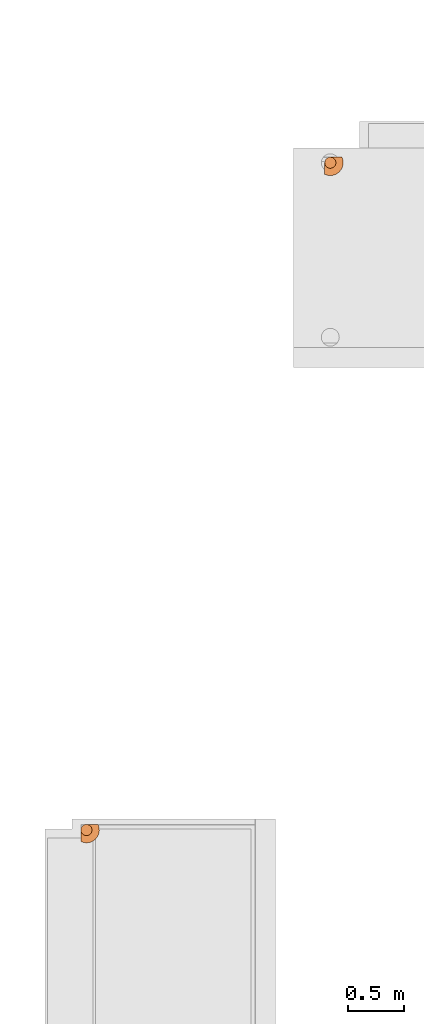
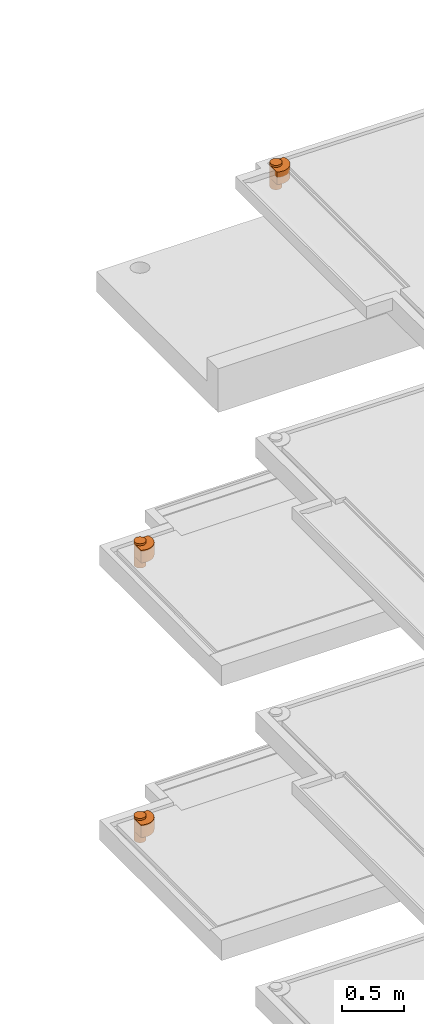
# One storey, part 23 of 31: 3 proxies, 3 elements without a shape of their own.
"""IFC2X3 building model written with IfcOpenShell, lengths in centimetres."""

from ifc_helpers import new_model, entity, si_unit, converted_unit, derived_unit, direction, frame, origin, place, context, subcontext, project, spatial, faceted_brep, source, transform, mapped, material, type_object, type_shapes, element, aggregate, save


model = new_model("IFC2X3")

# Units and contexts
model_context = context("Model", 3, precision=0.001, world=origin(), true_north=direction((6.12303176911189e-17, 1.0)))
body_context = subcontext(model_context, "Body", "Model", "MODEL_VIEW")
ifc_project = project(units=[si_unit("LENGTHUNIT", "METRE", prefix="CENTI"), si_unit("AREAUNIT", "SQUARE_METRE"), si_unit("VOLUMEUNIT", "CUBIC_METRE"), converted_unit("PLANEANGLEUNIT", "DEGREE", entity("IfcRatioMeasure", 0.0174532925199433), si_unit("PLANEANGLEUNIT", "RADIAN"), dimensions=[0, 0, 0, 0, 0, 0, 0]), si_unit("MASSUNIT", "GRAM", prefix="KILO"), derived_unit("MASSDENSITYUNIT", [(si_unit("MASSUNIT", "GRAM", prefix="KILO"), 1), (si_unit("LENGTHUNIT", "METRE"), -3)]), si_unit("TIMEUNIT", "SECOND"), si_unit("FREQUENCYUNIT", "HERTZ"), si_unit("THERMODYNAMICTEMPERATUREUNIT", "DEGREE_CELSIUS"), derived_unit("THERMALTRANSMITTANCEUNIT", [(si_unit("MASSUNIT", "GRAM", prefix="KILO"), 1), (si_unit("THERMODYNAMICTEMPERATUREUNIT", "KELVIN"), -1), (si_unit("TIMEUNIT", "SECOND"), -3)]), derived_unit("VOLUMETRICFLOWRATEUNIT", [(si_unit("LENGTHUNIT", "METRE"), 3), (si_unit("TIMEUNIT", "SECOND"), -1)]), si_unit("ELECTRICCURRENTUNIT", "AMPERE"), si_unit("ELECTRICVOLTAGEUNIT", "VOLT"), si_unit("POWERUNIT", "WATT"), si_unit("FORCEUNIT", "NEWTON"), si_unit("ILLUMINANCEUNIT", "LUX"), si_unit("LUMINOUSFLUXUNIT", "LUMEN"), si_unit("LUMINOUSINTENSITYUNIT", "CANDELA"), derived_unit("USERDEFINED", [(si_unit("MASSUNIT", "GRAM", prefix="KILO"), -1), (si_unit("LENGTHUNIT", "METRE"), -2), (si_unit("TIMEUNIT", "SECOND"), 3), (si_unit("LUMINOUSFLUXUNIT", "LUMEN"), 1)]), derived_unit("LINEARVELOCITYUNIT", [(si_unit("LENGTHUNIT", "METRE"), 1), (si_unit("TIMEUNIT", "SECOND"), -1)]), si_unit("PRESSUREUNIT", "PASCAL"), derived_unit("USERDEFINED", [(si_unit("LENGTHUNIT", "METRE"), -2), (si_unit("MASSUNIT", "GRAM", prefix="KILO"), 1), (si_unit("TIMEUNIT", "SECOND"), -2)])], contexts=[model_context])

# Site, building, storey
site_placement = place(None, origin())
site = spatial("IfcSite", under=ifc_project, at=site_placement, Name="Default", CompositionType="ELEMENT")
building_placement = place(site_placement, origin())
building = spatial("IfcBuilding", under=site, at=building_placement, Name="CAGE 03", CompositionType="ELEMENT")
storey_placement = place(building_placement, frame((0.0, 0.0, -400.0)))
storey = spatial("IfcBuildingStorey", under=building, at=storey_placement, Name="±0.00", CompositionType="ELEMENT", Elevation=-400.0)

# Assembly, proxy
assembly_1_placement = place(storey_placement, origin())
assembly_1 = element("IfcElementAssembly", 1, at=assembly_1_placement, inside=storey, Name="Assemblage Modèles génériques:BALCON TYPE 01", ObjectType="Assemblage Modèles génériques:BALCON TYPE 01", AssemblyPlace="NOTDEFINED", PredefinedType="USERDEFINED")
ifc_material = material(Name="BBGO_Résa")
building_element_proxy_type_1 = type_object("IfcBuildingElementProxyType", Name="Siphon de balcon", PredefinedType="NOTDEFINED", material=ifc_material)
shared_shape_1 = source(origin(), body_context, "Body", "Brep", [
    faceted_brep([(6.68784336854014, 14.159527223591, 9.69999999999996), (6.68784336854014, 14.1595272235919, 0.0), (6.18834125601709, 12.9536224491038, 0.0), (6.18834125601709, 12.9536224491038, 9.69999999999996), (6.68784336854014, 14.1595272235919, 22.0), (6.18834125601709, 12.9536224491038, 22.0), (6.18834125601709, 12.9536224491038, 24.0), (6.68784336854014, 14.1595272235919, 24.0), (6.01797038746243, 11.6595272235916, 0.0), (6.01797038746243, 11.6595272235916, 9.69999999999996), (6.01797038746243, 11.6595272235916, 22.0), (6.01797038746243, 11.6595272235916, 24.0), (6.18834125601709, 10.3654319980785, 9.69999999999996), (6.18834125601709, 10.3654319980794, 0.0), (6.68784336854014, 9.15952722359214, 0.0), (6.68784336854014, 9.15952722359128, 9.69999999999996), (6.18834125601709, 10.3654319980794, 22.0), (6.68784336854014, 9.15952722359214, 22.0), (6.68784336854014, 9.15952722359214, 24.0), (6.18834125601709, 10.3654319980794, 24.0), (7.48243648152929, 8.12399331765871, 0.0), (7.48243648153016, 8.12399331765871, 9.69999999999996), (7.48243648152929, 8.12399331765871, 24.0), (7.48243648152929, 8.12399331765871, 22.0), (7.48243648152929, 15.1950611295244, 9.69999999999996), (7.48243648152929, 15.1950611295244, 0.0), (7.48243648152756, 15.195061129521, 22.0), (7.48243648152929, 15.1950611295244, 24.0), (8.51797038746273, 7.32940020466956, 9.69999999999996), (8.51797038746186, 7.32940020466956, 0.0), (9.72387516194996, 6.82989809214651, 0.0), (9.72387516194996, 6.82989809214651, 9.69999999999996), (8.51797038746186, 7.32940020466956, 22.0), (9.72387516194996, 6.82989809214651, 22.0), (9.72387516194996, 6.82989809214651, 24.0), (8.51797038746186, 7.32940020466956, 24.0), (11.0179703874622, 6.65952722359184, 0.0), (11.0179703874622, 6.65952722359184, 9.69999999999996), (11.0179703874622, 6.65952722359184, 22.0), (11.0179703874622, 6.65952722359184, 24.0), (12.3120656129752, 6.82989809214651, 9.69999999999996), (12.3120656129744, 6.82989809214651, 0.0), (13.5179703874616, 7.32940020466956, 0.0), (13.5179703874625, 7.32940020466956, 9.69999999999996), (12.3120656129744, 6.82989809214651, 22.0), (13.5179703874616, 7.32940020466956, 22.0), (13.5179703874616, 7.32940020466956, 24.0), (12.3120656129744, 6.82989809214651, 24.0), (14.553504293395, 8.12399331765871, 0.0), (14.553504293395, 8.12399331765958, 9.69999999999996), (14.553504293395, 8.12399331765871, 22.0), (14.553504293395, 8.12399331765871, 24.0), (15.3480974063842, 14.1595272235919, 22.0), (15.8475995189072, 12.9536224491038, 22.0), (16.0179703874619, 11.6595272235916, 22.0), (15.8475995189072, 10.3654319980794, 22.0), (15.3480974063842, 9.15952722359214, 22.0), (0.15952722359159, 7.872151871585, 22.0), (1.41532336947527, 5.33187598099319, 22.0), (3.25417812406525, 3.17580577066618, 22.0), (5.56443893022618, 1.53485465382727, 22.0), (8.20583014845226, 0.508658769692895, 22.0), (11.0179703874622, 0.15952722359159, 22.0), (13.8301106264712, 0.508658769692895, 22.0), (16.4715018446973, 1.53485465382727, 22.0), (18.7817626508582, 3.17580577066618, 22.0), (20.6206174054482, 5.33187598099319, 22.0), (21.8764135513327, 7.87215187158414, 22.0), (14.553504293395, 15.1950611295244, 22.0), (15.3480974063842, 9.15952722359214, 9.69999999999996), (15.8475995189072, 10.3654319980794, 9.69999999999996), (16.0179703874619, 11.6595272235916, 9.69999999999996), (15.8475995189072, 12.9536224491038, 9.69999999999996), (15.3480974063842, 14.159527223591, 9.69999999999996), (14.553504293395, 15.1950611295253, 9.69999999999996), (21.8764135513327, 7.87215187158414, 9.69999999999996), (20.6206174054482, 5.33187598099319, 9.69999999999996), (18.7817626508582, 3.17580577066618, 9.69999999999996), (16.4715018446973, 1.53485465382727, 9.69999999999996), (13.8301106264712, 0.508658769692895, 9.69999999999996), (11.0179703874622, 0.15952722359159, 9.69999999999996), (8.20583014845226, 0.508658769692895, 9.69999999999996), (5.56443893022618, 1.53485465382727, 9.69999999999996), (3.25417812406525, 3.17580577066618, 9.69999999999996), (1.41532336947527, 5.33187598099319, 9.69999999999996), (0.15952722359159, 7.872151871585, 9.69999999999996), (0.15952722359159, 7.872151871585, 21.3763717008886), (21.8764135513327, 7.87215187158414, 21.5299497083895), (15.3480974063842, 9.15952722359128, 24.0), (15.8475995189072, 10.3654319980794, 24.0), (16.0179703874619, 11.6595272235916, 24.0), (15.8475995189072, 12.9536224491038, 24.0), (15.3480974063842, 14.159527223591, 24.0), (14.553504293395, 15.1950611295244, 24.0), (13.5179703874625, 15.9896542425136, 24.0), (12.3120656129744, 16.4891563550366, 24.0), (11.0179703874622, 16.6595272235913, 24.0), (9.72387516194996, 16.4891563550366, 24.0), (8.51797038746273, 15.9896542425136, 24.0), (15.8475995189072, 10.3654319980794, 0.0), (15.3480974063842, 9.15952722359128, 0.0), (8.51797038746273, 15.9896542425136, 0.0), (9.72387516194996, 16.4891563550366, 0.0), (11.0179703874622, 16.6595272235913, 0.0), (12.3120656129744, 16.4891563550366, 0.0), (13.5179703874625, 15.9896542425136, 0.0), (14.553504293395, 15.1950611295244, 0.0), (15.3480974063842, 14.159527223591, 0.0), (15.8475995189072, 12.9536224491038, 0.0), (16.0179703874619, 11.6595272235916, 0.0)], [[[0, 1, 2, 3]], [[4, 5, 6, 7]], [[8, 9, 3, 2]], [[5, 10, 11, 6]], [[12, 13, 14, 15]], [[16, 17, 18, 19]], [[8, 13, 12, 9]], [[10, 16, 19, 11]], [[15, 14, 20, 21]], [[22, 18, 17, 23]], [[1, 0, 24, 25]], [[26, 4, 7, 27]], [[28, 29, 30, 31]], [[32, 33, 34, 35]], [[36, 37, 31, 30]], [[33, 38, 39, 34]], [[40, 41, 42, 43]], [[44, 45, 46, 47]], [[36, 41, 40, 37]], [[38, 44, 47, 39]], [[43, 42, 48, 49]], [[45, 50, 51, 46]], [[29, 28, 21, 20]], [[32, 35, 22, 23]], [[52, 53, 54, 55, 56, 50, 45, 44, 38, 33, 32, 23, 17, 16, 10, 5, 4, 26, 57, 58, 59, 60, 61, 62, 63, 64, 65, 66, 67, 68]], [[21, 28, 31, 37, 40, 43, 49, 69, 70, 71, 72, 73, 74, 75, 76, 77, 78, 79, 80, 81, 82, 83, 84, 85, 24, 0, 3, 9, 12, 15]], [[57, 26, 24, 85, 86]], [[86, 85, 84, 58, 57]], [[83, 59, 58, 84]], [[60, 82, 81, 61]], [[83, 82, 60, 59]], [[61, 81, 80, 62]], [[78, 64, 63, 79]], [[77, 65, 64, 78]], [[76, 75, 87, 67, 66]], [[77, 76, 66, 65]], [[79, 63, 62, 80]], [[68, 67, 87, 75, 74]], [[18, 22, 35, 34, 39, 47, 46, 51, 88, 89, 90, 91, 92, 93, 94, 95, 96, 97, 98, 27, 7, 6, 11, 19]], [[99, 100, 48, 42, 41, 36, 30, 29, 20, 14, 13, 8, 2, 1, 25, 101, 102, 103, 104, 105, 106, 107, 108, 109]], [[48, 100, 69, 49]], [[51, 50, 56, 88]], [[99, 70, 69, 100]], [[56, 55, 89, 88]], [[109, 108, 72, 71]], [[54, 53, 91, 90]], [[109, 71, 70, 99]], [[54, 90, 89, 55]], [[108, 107, 73, 72]], [[91, 53, 52, 92]], [[74, 106, 105, 94, 93, 68]], [[107, 106, 74, 73]], [[52, 68, 93, 92]], [[94, 105, 104, 95]], [[101, 25, 24, 26, 27, 98]], [[96, 103, 102, 97]], [[101, 98, 97, 102]], [[95, 104, 103, 96]]]),
])
type_shapes(building_element_proxy_type_1, [shared_shape_1])
proxy_1_placement = place(assembly_1_placement, frame((4909.81946933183, 4641.62525373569, 988.0), z_axis=(0.0, 0.0, 1.0), x_axis=(0.707106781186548, 0.707106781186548, 0.0)))
proxy_1 = element("IfcBuildingElementProxy", 2, at=proxy_1_placement, type_object=building_element_proxy_type_1, material=ifc_material, Name="Siphon de balcon:Siphon de balcon", ObjectType="Siphon de balcon", context=body_context, shape_type="MappedRepresentation", body=[
    mapped(shared_shape_1, transform((0.0, 0.0, 0.0), scale=1.0)),
])
aggregate(assembly_1, [proxy_1])

assembly_2_placement = place(storey_placement, origin())
assembly_2 = element("IfcElementAssembly", 3, at=assembly_2_placement, inside=storey, Name="Assemblage Modèles génériques:BALCON TYPE 01", ObjectType="Assemblage Modèles génériques:BALCON TYPE 01", AssemblyPlace="NOTDEFINED", PredefinedType="USERDEFINED")
building_element_proxy_type_2 = type_object("IfcBuildingElementProxyType", Name="Siphon de balcon", PredefinedType="NOTDEFINED", material=ifc_material)
shared_shape_2 = source(origin(), body_context, "Body", "Brep", [
    faceted_brep([(6.68784336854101, 14.1595272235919, 9.69999999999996), (6.68784336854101, 14.1595272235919, 0.0), (6.18834125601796, 12.9536224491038, 0.0), (6.18834125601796, 12.9536224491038, 9.69999999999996), (6.68784336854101, 14.1595272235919, 22.0), (6.18834125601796, 12.9536224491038, 22.0), (6.18834125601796, 12.9536224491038, 24.0), (6.68784336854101, 14.1595272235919, 24.0), (6.01797038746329, 11.6595272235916, 0.0), (6.01797038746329, 11.6595272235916, 9.69999999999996), (6.01797038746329, 11.6595272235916, 22.0), (6.01797038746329, 11.6595272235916, 24.0), (6.18834125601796, 10.3654319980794, 9.69999999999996), (6.18834125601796, 10.3654319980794, 0.0), (6.68784336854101, 9.15952722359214, 0.0), (6.68784336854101, 9.15952722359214, 9.69999999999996), (6.18834125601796, 10.3654319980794, 22.0), (6.68784336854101, 9.15952722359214, 22.0), (6.68784336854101, 9.15952722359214, 24.0), (6.18834125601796, 10.3654319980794, 24.0), (7.48243648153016, 8.12399331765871, 0.0), (7.48243648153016, 8.12399331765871, 9.69999999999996), (7.48243648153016, 8.12399331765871, 24.0), (7.48243648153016, 8.12399331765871, 22.0), (7.48243648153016, 15.1950611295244, 9.69999999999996), (7.48243648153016, 15.1950611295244, 0.0), (7.48243648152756, 15.1950611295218, 22.0), (7.48243648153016, 15.1950611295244, 24.0), (8.51797038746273, 7.32940020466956, 9.69999999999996), (8.51797038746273, 7.32940020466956, 0.0), (9.72387516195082, 6.82989809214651, 0.0), (9.72387516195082, 6.82989809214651, 9.69999999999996), (8.51797038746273, 7.32940020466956, 22.0), (9.72387516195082, 6.82989809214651, 22.0), (9.72387516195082, 6.82989809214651, 24.0), (8.51797038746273, 7.32940020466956, 24.0), (11.017970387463, 6.65952722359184, 0.0), (11.017970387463, 6.65952722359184, 9.69999999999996), (11.017970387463, 6.65952722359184, 22.0), (11.017970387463, 6.65952722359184, 24.0), (12.3120656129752, 6.82989809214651, 9.69999999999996), (12.3120656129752, 6.82989809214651, 0.0), (13.5179703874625, 7.32940020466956, 0.0), (13.5179703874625, 7.32940020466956, 9.69999999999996), (12.3120656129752, 6.82989809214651, 22.0), (13.5179703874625, 7.32940020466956, 22.0), (13.5179703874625, 7.32940020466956, 24.0), (12.3120656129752, 6.82989809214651, 24.0), (14.5535042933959, 8.12399331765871, 0.0), (14.5535042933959, 8.12399331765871, 9.69999999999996), (14.5535042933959, 8.12399331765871, 22.0), (14.5535042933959, 8.12399331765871, 24.0), (15.348097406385, 14.1595272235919, 22.0), (15.8475995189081, 12.9536224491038, 22.0), (16.0179703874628, 11.6595272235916, 22.0), (15.8475995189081, 10.3654319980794, 22.0), (15.348097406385, 9.15952722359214, 22.0), (0.15952722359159, 7.87215187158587, 22.0), (1.41532336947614, 5.33187598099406, 22.0), (3.25417812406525, 3.17580577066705, 22.0), (5.56443893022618, 1.53485465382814, 22.0), (8.20583014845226, 0.508658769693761, 22.0), (11.0179703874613, 0.15952722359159, 22.0), (13.8301106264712, 0.508658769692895, 22.0), (16.4715018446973, 1.5348546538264, 22.0), (18.7817626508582, 3.17580577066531, 22.0), (20.620617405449, 5.33187598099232, 22.0), (21.8764135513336, 7.87215187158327, 22.0), (14.5535042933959, 15.1950611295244, 22.0), (15.348097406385, 9.15952722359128, 9.69999999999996), (15.8475995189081, 10.3654319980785, 9.69999999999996), (16.0179703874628, 11.6595272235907, 9.69999999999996), (15.8475995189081, 12.9536224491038, 9.69999999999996), (15.3480974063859, 14.159527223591, 9.69999999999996), (14.5535042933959, 15.1950611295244, 9.69999999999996), (21.8764135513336, 7.87215187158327, 9.69999999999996), (20.620617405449, 5.33187598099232, 9.69999999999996), (18.7817626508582, 3.17580577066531, 9.69999999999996), (16.4715018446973, 1.5348546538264, 9.69999999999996), (13.8301106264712, 0.508658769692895, 9.69999999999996), (11.0179703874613, 0.15952722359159, 9.69999999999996), (8.20583014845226, 0.508658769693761, 9.69999999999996), (5.56443893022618, 1.53485465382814, 9.69999999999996), (3.25417812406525, 3.17580577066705, 9.69999999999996), (1.41532336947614, 5.33187598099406, 9.69999999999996), (0.15952722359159, 7.87215187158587, 9.69999999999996), (0.15952722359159, 7.87215187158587, 21.3763717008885), (21.8764135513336, 7.87215187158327, 21.5299497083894), (15.348097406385, 9.15952722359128, 24.0), (15.8475995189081, 10.3654319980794, 24.0), (16.0179703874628, 11.6595272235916, 24.0), (15.8475995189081, 12.9536224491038, 24.0), (15.348097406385, 14.159527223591, 24.0), (14.5535042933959, 15.1950611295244, 24.0), (13.5179703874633, 15.9896542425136, 24.0), (12.3120656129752, 16.4891563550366, 24.0), (11.017970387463, 16.6595272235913, 24.0), (9.72387516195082, 16.4891563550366, 24.0), (8.51797038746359, 15.9896542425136, 24.0), (15.8475995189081, 10.3654319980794, 0.0), (15.348097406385, 9.15952722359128, 0.0), (8.51797038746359, 15.9896542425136, 0.0), (9.72387516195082, 16.4891563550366, 0.0), (11.017970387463, 16.6595272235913, 0.0), (12.3120656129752, 16.4891563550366, 0.0), (13.5179703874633, 15.9896542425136, 0.0), (14.5535042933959, 15.1950611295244, 0.0), (15.348097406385, 14.159527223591, 0.0), (15.8475995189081, 12.9536224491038, 0.0), (16.0179703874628, 11.6595272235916, 0.0)], [[[0, 1, 2, 3]], [[4, 5, 6, 7]], [[8, 9, 3, 2]], [[5, 10, 11, 6]], [[12, 13, 14, 15]], [[16, 17, 18, 19]], [[8, 13, 12, 9]], [[10, 16, 19, 11]], [[15, 14, 20, 21]], [[22, 18, 17, 23]], [[1, 0, 24, 25]], [[26, 4, 7, 27]], [[28, 29, 30, 31]], [[32, 33, 34, 35]], [[36, 37, 31, 30]], [[33, 38, 39, 34]], [[40, 41, 42, 43]], [[44, 45, 46, 47]], [[36, 41, 40, 37]], [[38, 44, 47, 39]], [[43, 42, 48, 49]], [[45, 50, 51, 46]], [[29, 28, 21, 20]], [[32, 35, 22, 23]], [[52, 53, 54, 55, 56, 50, 45, 44, 38, 33, 32, 23, 17, 16, 10, 5, 4, 26, 57, 58, 59, 60, 61, 62, 63, 64, 65, 66, 67, 68]], [[21, 28, 31, 37, 40, 43, 49, 69, 70, 71, 72, 73, 74, 75, 76, 77, 78, 79, 80, 81, 82, 83, 84, 85, 24, 0, 3, 9, 12, 15]], [[57, 26, 24, 85, 86]], [[86, 85, 84, 58, 57]], [[83, 59, 58, 84]], [[60, 82, 81, 61]], [[83, 82, 60, 59]], [[61, 81, 80, 62]], [[78, 64, 63, 79]], [[77, 65, 64, 78]], [[76, 75, 87, 67, 66]], [[77, 76, 66, 65]], [[79, 63, 62, 80]], [[68, 67, 87, 75, 74]], [[18, 22, 35, 34, 39, 47, 46, 51, 88, 89, 90, 91, 92, 93, 94, 95, 96, 97, 98, 27, 7, 6, 11, 19]], [[99, 100, 48, 42, 41, 36, 30, 29, 20, 14, 13, 8, 2, 1, 25, 101, 102, 103, 104, 105, 106, 107, 108, 109]], [[48, 100, 69, 49]], [[51, 50, 56, 88]], [[99, 70, 69, 100]], [[56, 55, 89, 88]], [[109, 108, 72, 71]], [[54, 53, 91, 90]], [[109, 71, 70, 99]], [[54, 90, 89, 55]], [[108, 107, 73, 72]], [[91, 53, 52, 92]], [[74, 106, 105, 94, 93, 68]], [[107, 106, 74, 73]], [[52, 68, 93, 92]], [[94, 105, 104, 95]], [[101, 25, 24, 26, 27, 98]], [[96, 103, 102, 97]], [[101, 98, 97, 102]], [[95, 104, 103, 96]]]),
])
type_shapes(building_element_proxy_type_2, [shared_shape_2])
proxy_2_placement = place(assembly_2_placement, frame((4909.81946933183, 4641.62525373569, 718.0), z_axis=(0.0, 0.0, 1.0), x_axis=(0.707106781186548, 0.707106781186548, 0.0)))
proxy_2 = element("IfcBuildingElementProxy", 4, at=proxy_2_placement, type_object=building_element_proxy_type_2, material=ifc_material, Name="Siphon de balcon12:Siphon de balcon", ObjectType="Siphon de balcon", context=body_context, shape_type="MappedRepresentation", body=[
    mapped(shared_shape_2, transform((0.0, 0.0, 0.0), scale=1.0)),
])
aggregate(assembly_2, [proxy_2])

assembly_3_placement = place(storey_placement, origin())
assembly_3 = element("IfcElementAssembly", 5, at=assembly_3_placement, inside=storey, Name="Assemblage Modèles génériques:BALCON TYPE 07", ObjectType="Assemblage Modèles génériques:BALCON TYPE 07", AssemblyPlace="NOTDEFINED", PredefinedType="USERDEFINED")
building_element_proxy_type_3 = type_object("IfcBuildingElementProxyType", Name="Siphon de balcon", PredefinedType="NOTDEFINED", material=ifc_material)
shared_shape_3 = source(origin(), body_context, "Body", "Brep", [
    faceted_brep([(10.3541591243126, 16.4778834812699, 9.69999999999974), (10.3541591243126, 16.4778834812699, 0.0), (9.14825434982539, 15.9783813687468, 0.0), (9.14825434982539, 15.9783813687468, 9.69999999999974), (10.3541591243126, 16.4778834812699, 22.0), (9.14825434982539, 15.9783813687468, 22.0), (9.14825434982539, 15.9783813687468, 24.0), (10.3541591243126, 16.4778834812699, 24.0), (8.11272044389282, 15.1837882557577, 0.0), (8.11272044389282, 15.1837882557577, 9.69999999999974), (8.11272044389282, 15.1837882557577, 22.0), (8.11272044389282, 15.1837882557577, 24.0), (7.31812733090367, 14.1482543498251, 9.69999999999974), (7.31812733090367, 14.1482543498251, 0.0), (6.81862521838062, 12.9423495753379, 0.0), (6.81862521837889, 12.942349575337, 9.69999999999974), (7.31812733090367, 14.1482543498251, 22.0), (6.81862521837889, 12.942349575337, 22.0), (6.81862521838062, 12.9423495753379, 24.0), (7.31812733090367, 14.1482543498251, 24.0), (6.64825434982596, 11.6482543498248, 0.0), (6.64825434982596, 11.6482543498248, 9.69999999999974), (6.64825434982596, 11.6482543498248, 24.0), (6.64825434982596, 11.6482543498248, 22.0), (11.6482543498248, 16.6482543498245, 9.69999999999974), (11.6482543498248, 16.6482543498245, 0.0), (11.6482543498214, 16.6482543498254, 22.0), (11.6482543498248, 16.6482543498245, 24.0), (6.81862521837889, 10.3541591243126, 9.69999999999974), (6.81862521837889, 10.3541591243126, 0.0), (7.31812733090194, 9.14825434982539, 0.0), (7.31812733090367, 9.14825434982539, 9.69999999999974), (6.81862521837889, 10.3541591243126, 22.0), (7.31812733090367, 9.14825434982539, 22.0), (7.31812733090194, 9.14825434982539, 24.0), (6.81862521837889, 10.3541591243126, 24.0), (8.11272044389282, 8.11272044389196, 0.0), (8.11272044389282, 8.11272044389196, 9.69999999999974), (8.11272044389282, 8.11272044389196, 22.0), (8.11272044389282, 8.11272044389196, 24.0), (9.14825434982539, 7.31812733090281, 9.69999999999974), (9.14825434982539, 7.31812733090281, 0.0), (10.3541591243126, 6.81862521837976, 0.0), (10.3541591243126, 6.81862521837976, 9.69999999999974), (9.14825434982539, 7.31812733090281, 22.0), (10.3541591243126, 6.81862521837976, 22.0), (10.3541591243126, 6.81862521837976, 24.0), (9.14825434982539, 7.31812733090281, 24.0), (11.6482543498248, 6.64825434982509, 0.0), (11.6482543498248, 6.64825434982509, 9.69999999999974), (11.6482543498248, 6.64825434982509, 22.0), (11.6482543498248, 6.64825434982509, 24.0), (16.4778834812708, 10.3541591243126, 22.0), (15.978381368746, 9.14825434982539, 22.0), (15.1837882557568, 8.11272044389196, 22.0), (14.1482543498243, 7.31812733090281, 22.0), (12.942349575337, 6.81862521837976, 22.0), (1.29209676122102, 16.6482543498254, 22.0), (0.383832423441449, 13.964026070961, 22.0), (0.15952722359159, 11.1391875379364, 22.0), (0.632800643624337, 8.34525879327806, 22.0), (1.77491621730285, 5.75188308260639, 22.0), (3.51652636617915, 3.51652636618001, 22.0), (5.75188308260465, 1.77491621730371, 22.0), (8.34525879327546, 0.632800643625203, 22.0), (11.1391875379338, 0.159527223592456, 22.0), (13.9640260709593, 0.383832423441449, 22.0), (16.6482543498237, 1.29209676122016, 22.0), (16.6482543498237, 11.6482543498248, 22.0), (12.942349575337, 6.81862521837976, 9.69999999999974), (14.1482543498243, 7.31812733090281, 9.69999999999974), (15.1837882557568, 8.11272044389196, 9.69999999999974), (15.978381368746, 9.14825434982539, 9.69999999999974), (16.4778834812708, 10.3541591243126, 9.69999999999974), (16.6482543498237, 11.6482543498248, 9.69999999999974), (16.6482543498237, 1.29209676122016, 9.69999999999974), (13.9640260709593, 0.383832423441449, 9.69999999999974), (11.1391875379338, 0.159527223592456, 9.69999999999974), (8.34525879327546, 0.632800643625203, 9.69999999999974), (5.75188308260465, 1.77491621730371, 9.69999999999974), (3.51652636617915, 3.51652636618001, 9.69999999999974), (1.77491621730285, 5.75188308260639, 9.69999999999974), (0.632800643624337, 8.34525879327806, 9.69999999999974), (0.15952722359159, 11.1391875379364, 9.69999999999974), (0.383832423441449, 13.964026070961, 9.69999999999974), (1.29209676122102, 16.6482543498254, 9.69999999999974), (1.29209676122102, 16.6482543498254, 17.0), (16.6482543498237, 1.29209676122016, 21.3763717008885), (12.942349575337, 6.81862521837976, 24.0), (14.1482543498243, 7.31812733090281, 24.0), (15.1837882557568, 8.11272044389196, 24.0), (15.978381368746, 9.14825434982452, 24.0), (16.477883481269, 10.3541591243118, 24.0), (16.6482543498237, 11.6482543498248, 24.0), (16.4778834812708, 12.942349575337, 24.0), (15.9783813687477, 14.1482543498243, 24.0), (15.1837882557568, 15.1837882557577, 24.0), (14.1482543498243, 15.9783813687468, 24.0), (12.942349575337, 16.4778834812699, 24.0), (14.1482543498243, 7.31812733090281, 0.0), (12.942349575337, 6.81862521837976, 0.0), (12.942349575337, 16.4778834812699, 0.0), (14.1482543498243, 15.9783813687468, 0.0), (15.1837882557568, 15.1837882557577, 0.0), (15.9783813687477, 14.1482543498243, 0.0), (16.4778834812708, 12.942349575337, 0.0), (16.6482543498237, 11.6482543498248, 0.0), (16.477883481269, 10.3541591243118, 0.0), (15.978381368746, 9.14825434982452, 0.0), (15.1837882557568, 8.11272044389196, 0.0)], [[[0, 1, 2, 3]], [[4, 5, 6, 7]], [[8, 9, 3, 2]], [[5, 10, 11, 6]], [[12, 13, 14, 15]], [[16, 17, 18, 19]], [[8, 13, 12, 9]], [[10, 16, 19, 11]], [[15, 14, 20, 21]], [[22, 18, 17, 23]], [[1, 0, 24, 25]], [[26, 4, 7, 27]], [[28, 29, 30, 31]], [[32, 33, 34, 35]], [[36, 37, 31, 30]], [[33, 38, 39, 34]], [[40, 41, 42, 43]], [[44, 45, 46, 47]], [[36, 41, 40, 37]], [[38, 44, 47, 39]], [[43, 42, 48, 49]], [[45, 50, 51, 46]], [[29, 28, 21, 20]], [[32, 35, 22, 23]], [[52, 53, 54, 55, 56, 50, 45, 44, 38, 33, 32, 23, 17, 16, 10, 5, 4, 26, 57, 58, 59, 60, 61, 62, 63, 64, 65, 66, 67, 68]], [[21, 28, 31, 37, 40, 43, 49, 69, 70, 71, 72, 73, 74, 75, 76, 77, 78, 79, 80, 81, 82, 83, 84, 85, 24, 0, 3, 9, 12, 15]], [[57, 26, 24, 85, 86]], [[86, 85, 84, 58, 57]], [[83, 59, 58, 84]], [[60, 82, 81, 61]], [[83, 82, 60, 59]], [[61, 81, 80, 62]], [[78, 64, 63, 79]], [[77, 65, 64, 78]], [[76, 75, 87, 67, 66]], [[77, 76, 66, 65]], [[79, 63, 62, 80]], [[68, 67, 87, 75, 74]], [[22, 35, 34, 39, 47, 46, 51, 88, 89, 90, 91, 92, 93, 94, 95, 96, 97, 98, 27, 7, 6, 11, 19, 18]], [[99, 100, 48, 42, 41, 36, 30, 29, 20, 14, 13, 8, 2, 1, 25, 101, 102, 103, 104, 105, 106, 107, 108, 109]], [[48, 100, 69, 49]], [[51, 50, 56, 88]], [[99, 70, 69, 100]], [[56, 55, 89, 88]], [[109, 108, 72, 71]], [[54, 53, 91, 90]], [[109, 71, 70, 99]], [[54, 90, 89, 55]], [[108, 107, 73, 72]], [[91, 53, 52, 92]], [[74, 106, 105, 94, 93, 68]], [[107, 106, 74, 73]], [[52, 68, 93, 92]], [[94, 105, 104, 95]], [[101, 25, 24, 26, 27, 98]], [[96, 103, 102, 97]], [[101, 98, 97, 102]], [[95, 104, 103, 96]]]),
])
type_shapes(building_element_proxy_type_3, [shared_shape_3])
proxy_3_placement = place(assembly_3_placement, frame((4703.0140744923, 4049.51241172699, 1798.0), z_axis=(0.0, 0.0, 1.0), x_axis=(0.0, 1.0, 0.0)))
proxy_3 = element("IfcBuildingElementProxy", 6, at=proxy_3_placement, type_object=building_element_proxy_type_3, material=ifc_material, Name="Siphon de balcon23:Siphon de balcon", ObjectType="Siphon de balcon", context=body_context, shape_type="MappedRepresentation", body=[
    mapped(shared_shape_3, transform((0.0, 0.0, 0.0), scale=1.0)),
])
aggregate(assembly_3, [proxy_3])

save(model, "model.ifc")
